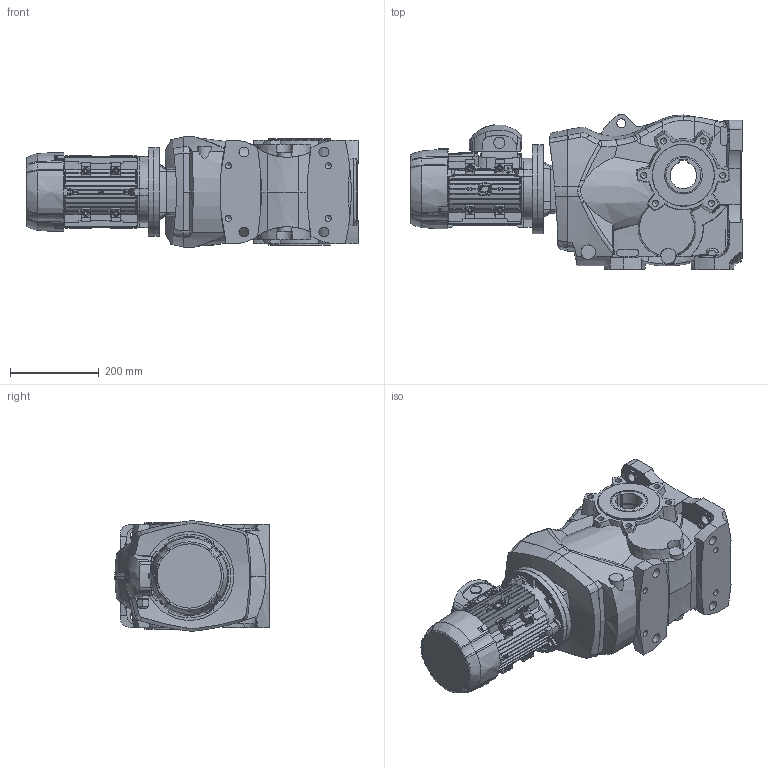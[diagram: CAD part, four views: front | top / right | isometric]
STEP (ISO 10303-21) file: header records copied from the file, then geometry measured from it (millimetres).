
FILE_DESCRIPTION((''),'2;1');
FILE_NAME('C:\xampp\htdocs\motive\source_step\enduro8.stp','2021-12-01T15:32:35',('apache'),(''),'Autodesk Inventor 2013','Autodesk Inventor 2013','');
FILE_SCHEMA(('CONFIG_CONTROL_DESIGN'));
Length unit declared in the file: millimetre
Products named in the file (12): enduro8; HOUEN8; ICVEN8; IFL90EN8; OSHEN8; TCVEN8; M90L; BODY90L; B590; SH90L; TBOX90_100; FCV90
Assembly tree (11 placements, depth 3):
  enduro8
    HOUEN8
    ICVEN8
    IFL90EN8
    OSHEN8
    TCVEN8
    M90L
      BODY90L
      B590
      SH90L
      TBOX90_100
      FCV90
Bounding box: 747.62 x 349.01 x 248.15 mm (x, y, z)
Volume: 29669296.2 mm3; surface area: 1795961.5 mm2
Topology: 12 solids, 12 shells, 2890 faces, 8002 edges, 5287 vertices
Faces by surface type: plane 1088, bspline 695, cylinder 607, cone 285, torus 213, sphere 2
Full cylindrical faces by diameter (mm): 2.5 x4, 4.2 x13, 5 x9, 5.4 x2, 6 x3, 6.8 x12, 7 x4, 8.5 x4, 11 x12, 12 x4, 14 x16, 20 x5, 22 x8, 23 x1, 24 x1, 25 x3, 28 x1, 40 x1, 42 x1, 45 x1, 48 x1, 50 x1, 52 x2, 55 x1, 64 x1, 85 x4, 125 x1, 130 x1, 131 x1, 140 x2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
Entity records: 146387 total; most frequent: CARTESIAN_POINT 77133, ORIENTED_EDGE 15468, DIRECTION 12582, EDGE_CURVE 7734, VERTEX_POINT 5204, AXIS2_PLACEMENT_3D 4760, EDGE_LOOP 3294, VECTOR 3062
